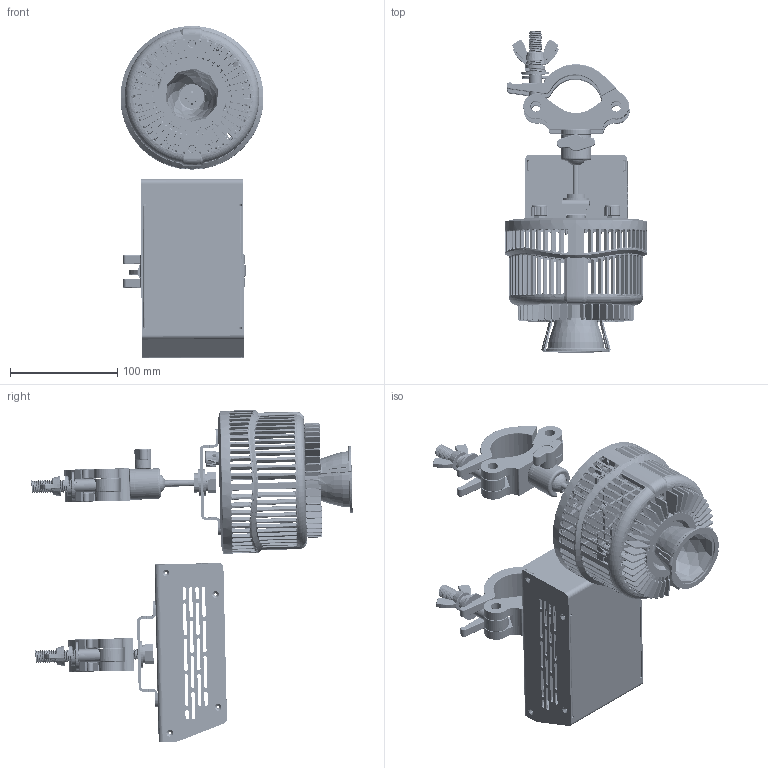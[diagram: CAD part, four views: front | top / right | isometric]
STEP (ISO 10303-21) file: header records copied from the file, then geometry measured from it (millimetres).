
FILE_DESCRIPTION (( 'STEP AP214' ), '1' );
FILE_NAME ('W500N-CLP-PS.STEP', '2024-02-01T22:36:40', ( '' ), ( '' ), 'SwSTEP 2.0', 'SolidWorks 2022', '' );
FILE_SCHEMA (( 'AUTOMOTIVE_DESIGN' ));
Length unit declared in the file: millimetre
Products named in the file (31): 5022452-003_A3_Reflector Sink Holder, D108x14.35(H)mm (-004 is White)_-003(Black); 5022693-XXX_A1_Bracket, 98.85x25x17.5, T=2.5mm___; 5120530-XXX_A1_Assembly BOM, W500 Reflector Type_Reflector - 55D-BD; 5021736-006_A2_Aluminum Hook, M10, Black_For W500-CLP-PS; W500N-CLP-PS; 5120539-XXX_A1_Housing, OD=133, ID=121, T=78.1mm, For Reflector, Without Logo___; 5010177-XXX_A2_Assembly BOM, Kessil W500_55D-BD-[TEX]; 62282-5014005_ _Standard Types of Metric Set Screws, M4xL5, Black___; 5022424-XXX_A2_250W Power Box Cover (TG&TEX-PS&CLP&TJ TYPE), 165x92x62.5(H)mm___; 5022427-XXX_A4_250W Power Box FRAME (TG&TEX&CLP TYPE), 165x95x64mm___; 5022708-XXX_A2_Ball Joint Axis, L=65.8mm___; 5020757-001_A1_VR Nut, Kessil A360 Aquarium Light___; 5022449-XXX_A1_Ball Joint Part C (For CLP), L=18.9mm___; 5120519-XXX_A3_Assembly BOM, Kessil W500 Power Box_TON(US)-PS; 5022405-XXX_A1_Wing Knob Screws, M6xL8.0mm_-001; 5022189_A1_Plate, OD=48, ID=23, T=2.0mm___; 5022398-XXX_A1_Plug for W Series, 19x10x9.4mm_-002(Black); 5022445-XXX_A1_DC Plug for W Series, D=12mm_-002(Black); 5120522-XXX_A4_Assembly BOM, W360&W500 Light Mounting Type_TG; 5020757-002_A2_VR Washer, Kessil A360 Aquarium Light___; 5020893-2010525020_ _Flat Washer, M10, ID10.5 OD25.0, T2 SUS 304___; 5021926-XXX_A2_KNOB, 18T, OD=14.9, ID=6, L=10MM_C1; 62280-231A030_ _SCREW, M10xP1.5 L30mm_Original; 5060069-XXX_A2_W series Reflector-35, OD=62, H=45mm___; 5021416_A1_Hex Nut, M10xP1.5, T8 SUS___; 5120540-XXX_A1_Rear Panel, OD=133, T=13.65mm, W-Series_5120531-001 W500; 5020897-2010216520_ _Helical Spring Washer Customized___; 5120529-XXX_A1_Assembly BOM, W500 Light Engine_Finish; 62280-1343006_ _SCREW, PAN HEAD TROX W-THD LOCK, SUS-410, BLACK, M3xL6mm___; 5022453-XXX_A1_35D Sink Holder B, 71.2x62.2x31.1(H)mm___; 5022431-XXX_A1_Ball Joint Part A, L=23.7mm___
Assembly tree (40 placements, depth 4):
  W500N-CLP-PS
    5120519-XXX_A3_Assembly BOM, Kessil W500 Power Box_TON(US)-PS
      5022427-XXX_A4_250W Power Box FRAME (TG&TEX&CLP TYPE), 165x95x64mm___
      5021736-006_A2_Aluminum Hook, M10, Black_For W500-CLP-PS
      62280-231A030_ _SCREW, M10xP1.5 L30mm_Original
      5022693-XXX_A1_Bracket, 98.85x25x17.5, T=2.5mm___
      5020893-2010525020_ _Flat Washer, M10, ID10.5 OD25.0, T2 SUS 304___
      5020897-2010216520_ _Helical Spring Washer Customized___
      5021416_A1_Hex Nut, M10xP1.5, T8 SUS___
      5022424-XXX_A2_250W Power Box Cover (TG&TEX-PS&CLP&TJ TYPE), 165x92x62.5(H)mm___
    5010177-XXX_A2_Assembly BOM, Kessil W500_55D-BD-[TEX]
      5120529-XXX_A1_Assembly BOM, W500 Light Engine_Finish
        5120540-XXX_A1_Rear Panel, OD=133, T=13.65mm, W-Series_5120531-001 W500
        5022398-XXX_A1_Plug for W Series, 19x10x9.4mm_-002(Black)
        5022445-XXX_A1_DC Plug for W Series, D=12mm_-002(Black)
        5020757-002_A2_VR Washer, Kessil A360 Aquarium Light___  x2
        5020757-001_A1_VR Nut, Kessil A360 Aquarium Light___  x2
        5021926-XXX_A2_KNOB, 18T, OD=14.9, ID=6, L=10MM_C1  x2
      5120530-XXX_A1_Assembly BOM, W500 Reflector Type_Reflector - 55D-BD
        5120539-XXX_A1_Housing, OD=133, ID=121, T=78.1mm, For Reflector, Without Logo___
        5022189_A1_Plate, OD=48, ID=23, T=2.0mm___
        62280-1343006_ _SCREW, PAN HEAD TROX W-THD LOCK, SUS-410, BLACK, M3xL6mm___  x2
        5022452-003_A3_Reflector Sink Holder, D108x14.35(H)mm (-004 is White)_-003(Black)
        5022453-XXX_A1_35D Sink Holder B, 71.2x62.2x31.1(H)mm___
        5060069-XXX_A2_W series Reflector-35, OD=62, H=45mm___
      5120522-XXX_A4_Assembly BOM, W360&W500 Light Mounting Type_TG
        5022431-XXX_A1_Ball Joint Part A, L=23.7mm___
        5022708-XXX_A2_Ball Joint Axis, L=65.8mm___
        62282-5014005_ _Standard Types of Metric Set Screws, M4xL5, Black___
        5022405-XXX_A1_Wing Knob Screws, M6xL8.0mm_-001
        5022693-XXX_A1_Bracket, 98.85x25x17.5, T=2.5mm___
        5021736-006_A2_Aluminum Hook, M10, Black_For W500-CLP-PS
        5022449-XXX_A1_Ball Joint Part C (For CLP), L=18.9mm___
        5020893-2010525020_ _Flat Washer, M10, ID10.5 OD25.0, T2 SUS 304___  x2
        5020897-2010216520_ _Helical Spring Washer Customized___
        5021416_A1_Hex Nut, M10xP1.5, T8 SUS___
Bounding box: 133 x 298.88 x 308.93 mm (x, y, z)
Volume: 483747.3 mm3; surface area: 415852.8 mm2
Topology: 51 solids, 51 shells, 6894 faces, 18787 edges, 11897 vertices
Faces by surface type: cylinder 2620, plane 2385, bspline 841, cone 509, torus 493, sphere 46
Entity records: 280141 total; most frequent: CARTESIAN_POINT 127520, ORIENTED_EDGE 32974, DIRECTION 27599, EDGE_CURVE 16487, VERTEX_POINT 10419, AXIS2_PLACEMENT_3D 10231, VECTOR 7137, LINE 7137
